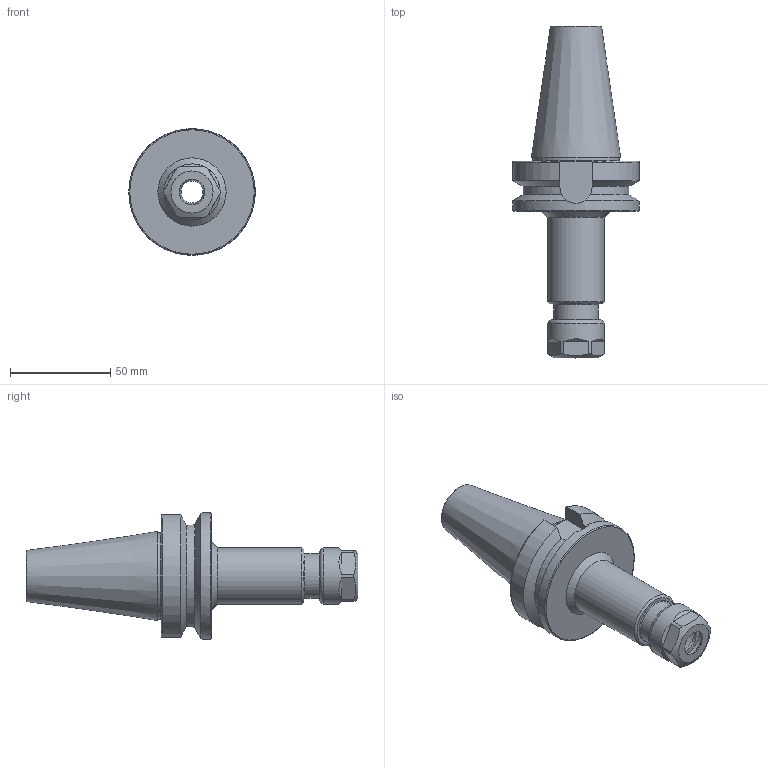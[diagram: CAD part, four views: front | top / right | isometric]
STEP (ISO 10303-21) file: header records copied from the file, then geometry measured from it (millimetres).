
FILE_DESCRIPTION(/* description */ (''),/* implementation_level */ '2;1');
FILE_NAME(/* name */ 'BT40-ER16-100.stp',/* time_stamp */ '2026-06-11T09:00:22+03:00',/* author */ ('User'),/* organization */ (''),/* preprocessor_version */ 'ST-DEVELOPER v19.2',/* originating_system */ 'Autodesk Inventor 2024',/* authorisation */ '');
FILE_SCHEMA (('AUTOMOTIVE_DESIGN { 1 0 10303 214 3 1 1 }'));
Length unit declared in the file: millimetre
Products named in the file (3): BT40-ER16-150; BT40-FMB60-75; гайка ER16
Assembly tree (2 placements, depth 2):
  BT40-ER16-150
    BT40-FMB60-75
    гайка ER16
Bounding box: 63 x 165.4 x 63 mm (x, y, z)
Volume: 153314.8 mm3; surface area: 33101.7 mm2
Topology: 2 solids, 2 shells, 69 faces, 166 edges, 110 vertices
Faces by surface type: plane 31, cylinder 18, cone 13, torus 7
Full cylindrical faces by diameter (mm): 10.941 x1, 12.7 x2, 14.2 x1, 17 x2, 20.376 x1, 22 x1, 28 x2, 43 x1, 63 x1
Entity records: 2238 total; most frequent: CARTESIAN_POINT 468, DIRECTION 365, ORIENTED_EDGE 332, EDGE_CURVE 166, AXIS2_PLACEMENT_3D 152, VERTEX_POINT 110, EDGE_LOOP 82, CIRCLE 71
